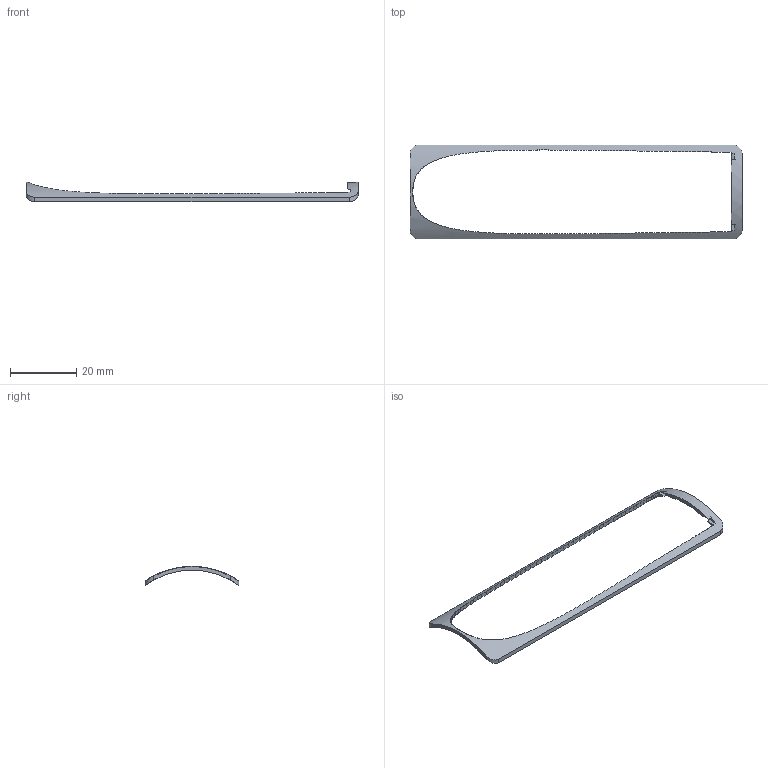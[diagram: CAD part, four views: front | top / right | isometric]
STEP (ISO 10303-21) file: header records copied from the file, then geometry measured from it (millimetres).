
FILE_DESCRIPTION(('SkyG Speed 120B - revision C7B-1 - 2026-10-09','WF-wing-window-filler'),'2;1');
FILE_NAME('WF-wing-window-filler_C7B-1','2026-10-09T15:13:01',('Author'),( 'Open CASCADE'),'Open CASCADE STEP processor 7.9','Open CASCADE 7.9' ,'Unknown');
FILE_SCHEMA(('AUTOMOTIVE_DESIGN { 1 0 10303 214 1 1 1 1 }'));
Length unit declared in the file: millimetre
Products named in the file (1): WF-wing-window-filler C7B-1
Bounding box: 100.4 x 28.4 x 5.78 mm (x, y, z)
Volume: 701 mm3; surface area: 1904.6 mm2
Topology: 1 solids, 1 shells, 141 faces, 416 edges, 277 vertices
Faces by surface type: plane 123, bspline 12, cylinder 6
Entity records: 24380 total; most frequent: CARTESIAN_POINT 16553, DIRECTION 1386, ORIENTED_EDGE 832, PCURVE 832, DEFINITIONAL_REPRESENTATION 832, ELLIPSE 476, EDGE_CURVE 416, SURFACE_CURVE 416
